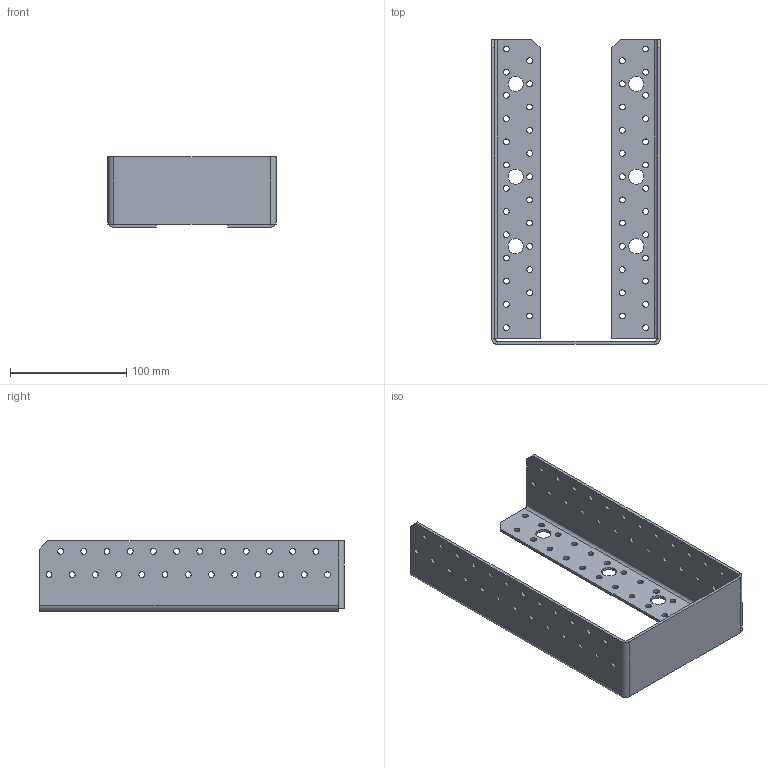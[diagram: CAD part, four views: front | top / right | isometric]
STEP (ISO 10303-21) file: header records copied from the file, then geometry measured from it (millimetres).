
FILE_DESCRIPTION (( 'STEP AP203' ), '1' );
FILE_NAME ('40549IKO.STEP', '2021-04-16T08:20:27', ( '' ), ( '' ), 'SwSTEP 2.0', 'SolidWorks 2013', '' );
FILE_SCHEMA (( 'CONFIG_CONTROL_DESIGN' ));
Length unit declared in the file: millimetre
Products named in the file (1): 40549IKO
Bounding box: 145 x 262.5 x 60.5 mm (x, y, z)
Volume: 140172.5 mm3; surface area: 120636.6 mm2
Topology: 1 solids, 1 shells, 256 faces, 732 edges, 478 vertices
Faces by surface type: cylinder 220, plane 36
Entity records: 9079 total; most frequent: DIRECTION 1688, CARTESIAN_POINT 1467, ORIENTED_EDGE 1464, EDGE_CURVE 732, AXIS2_PLACEMENT_3D 699, VERTEX_POINT 478, EDGE_LOOP 468, CIRCLE 442
